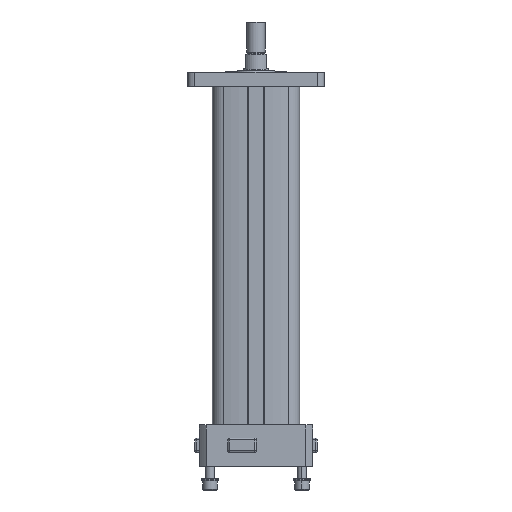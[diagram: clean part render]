
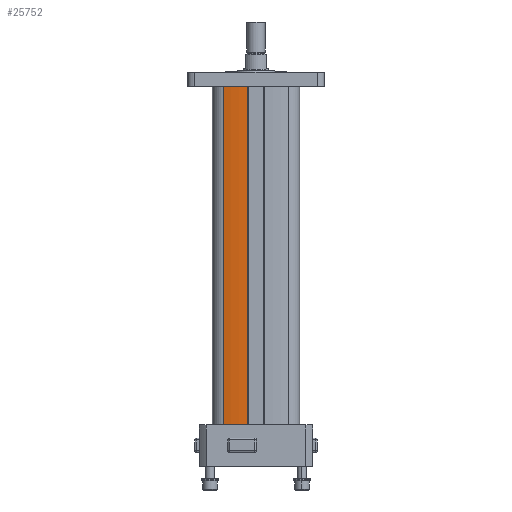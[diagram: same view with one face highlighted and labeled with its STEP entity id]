
A CAD part, front view. The second image highlights one B-rep face of the part: STEP entity #25752.
In plain terms, the highlighted cylindrical face has radius 99.049 mm (diameter 198.098 mm), a partial arc.
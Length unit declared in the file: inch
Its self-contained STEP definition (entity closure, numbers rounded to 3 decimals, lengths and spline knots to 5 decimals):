
#8486 = CARTESIAN_POINT ( 'NONE',  ( -1.35167, 1.12319, 11.787 ) ) ;
#8487 = CARTESIAN_POINT ( 'NONE',  ( -1.43687, 0.3125, 11.787 ) ) ;
#8594 = CARTESIAN_POINT ( 'NONE',  ( 2.46271, 0.3125, 11.787 ) ) ;
#8599 = CIRCLE ( 'NONE', #8604, 3.89957 ) ;
#8604 = AXIS2_PLACEMENT_3D ( 'NONE', #8594, #8642, #8641 ) ;
#8641 = DIRECTION ( 'NONE',  ( -1., 0., 0. ) ) ;
#8642 = DIRECTION ( 'NONE',  ( 0., 0., 1. ) ) ;
#8839 = CIRCLE ( 'NONE', #8849, 3.89957 ) ;
#8849 = AXIS2_PLACEMENT_3D ( 'NONE', #8894, #8893, #8892 ) ;
#8879 = CARTESIAN_POINT ( 'NONE',  ( -1.43687, 0.3125, 0. ) ) ;
#8892 = DIRECTION ( 'NONE',  ( -1., 0., 0. ) ) ;
#8893 = DIRECTION ( 'NONE',  ( 0., 0., 1. ) ) ;
#8894 = CARTESIAN_POINT ( 'NONE',  ( 2.46271, 0.3125, 0. ) ) ;
#8895 = CARTESIAN_POINT ( 'NONE',  ( -1.35167, 1.12319, 0. ) ) ;
#9385 = DIRECTION ( 'NONE',  ( 0., 0., -1. ) ) ;
#9386 = VECTOR ( 'NONE', #9385, 39.37008 ) ;
#9387 = CARTESIAN_POINT ( 'NONE',  ( -1.43687, 0.3125, 11.787 ) ) ;
#9388 = LINE ( 'NONE', #9387, #9386 ) ;
#11465 = FACE_OUTER_BOUND ( 'NONE', #25831, .T. ) ;
#11478 = CARTESIAN_POINT ( 'NONE',  ( 2.46271, 0.3125, 0. ) ) ;
#11488 = AXIS2_PLACEMENT_3D ( 'NONE', #11478, #11522, #11521 ) ;
#11490 = CYLINDRICAL_SURFACE ( 'NONE', #11488, 3.89957 ) ;
#11507 = DIRECTION ( 'NONE',  ( 0., 0., -1. ) ) ;
#11508 = VECTOR ( 'NONE', #11507, 39.37008 ) ;
#11509 = CARTESIAN_POINT ( 'NONE',  ( -1.35167, 1.12319, 0. ) ) ;
#11510 = LINE ( 'NONE', #11509, #11508 ) ;
#11521 = DIRECTION ( 'NONE',  ( 1., 0., 0. ) ) ;
#11522 = DIRECTION ( 'NONE',  ( 0., 0., 1. ) ) ;
#23916 = VERTEX_POINT ( 'NONE', #8487 ) ;
#23917 = VERTEX_POINT ( 'NONE', #8486 ) ;
#23989 = EDGE_CURVE ( 'NONE', #23917, #23916, #8599, .T. ) ;
#24135 = EDGE_CURVE ( 'NONE', #24136, #24160, #8839, .T. ) ;
#24136 = VERTEX_POINT ( 'NONE', #8895 ) ;
#24160 = VERTEX_POINT ( 'NONE', #8879 ) ;
#24427 = EDGE_CURVE ( 'NONE', #23916, #24160, #9388, .T. ) ;
#25751 = ORIENTED_EDGE ( 'NONE', *, *, #24135, .T. ) ;
#25752 = ADVANCED_FACE ( 'NONE', ( #11465 ), #11490, .T. ) ;
#25756 = EDGE_CURVE ( 'NONE', #23917, #24136, #11510, .T. ) ;
#25810 = ORIENTED_EDGE ( 'NONE', *, *, #23989, .F. ) ;
#25813 = ORIENTED_EDGE ( 'NONE', *, *, #24427, .F. ) ;
#25828 = ORIENTED_EDGE ( 'NONE', *, *, #25756, .T. ) ;
#25831 = EDGE_LOOP ( 'NONE', ( #25810, #25828, #25751, #25813 ) ) ;
